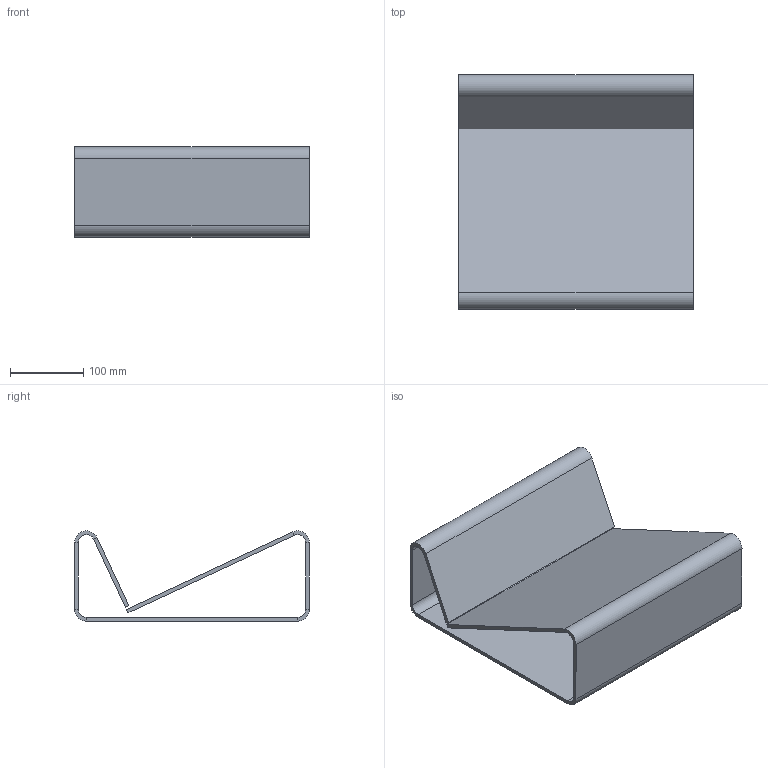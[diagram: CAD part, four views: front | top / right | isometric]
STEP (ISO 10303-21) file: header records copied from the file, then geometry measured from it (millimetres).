
FILE_DESCRIPTION(/* description */ (''),/* implementation_level */ '2;1');
FILE_NAME(/* name */ '001 v49.step',/* time_stamp */ '2025-08-09T17:52:21-04:00',/* author */ (''),/* organization */ (''),/* preprocessor_version */ 'ST-DEVELOPER v20.1',/* originating_system */ 'Autodesk Translation Framework v14.10.0.0',/* authorisation */ '');
FILE_SCHEMA (('AUTOMOTIVE_DESIGN { 1 0 10303 214 3 1 1 }'));
Length unit declared in the file: millimetre
Products named in the file (1): 001
Bounding box: 320 x 320 x 122.98 mm (x, y, z)
Volume: 1486014.2 mm3; surface area: 606898.7 mm2
Topology: 1 solids, 1 shells, 1147 faces, 3253 edges, 2158 vertices
Faces by surface type: bspline 840, plane 299, cylinder 8
Entity records: 44865 total; most frequent: CARTESIAN_POINT 20839, ORIENTED_EDGE 6506, EDGE_CURVE 3253, DIRECTION 2205, VERTEX_POINT 2158, B_SPLINE_CURVE_WITH_KNOTS 1680, LINE 1557, VECTOR 1557
